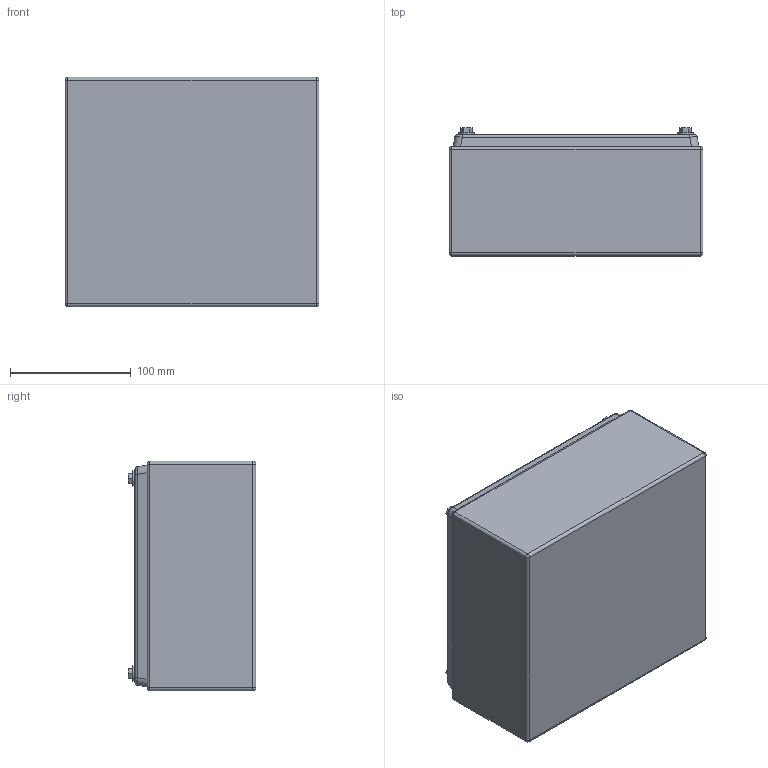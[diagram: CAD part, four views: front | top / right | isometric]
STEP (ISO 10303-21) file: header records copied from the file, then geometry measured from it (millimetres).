
FILE_DESCRIPTION (( 'STEP AP203' ), '1' );
FILE_NAME ('DE09-304A.STEP', '2021-02-23T13:05:41', ( '' ), ( '' ), 'SwSTEP 2.0', 'SolidWorks 2020', '' );
FILE_SCHEMA (( 'CONFIG_CONTROL_DESIGN' ));
Length unit declared in the file: millimetre
Products named in the file (1): DE09-304A
Bounding box: 210 x 105.6 x 190 mm (x, y, z)
Volume: 295182.5 mm3; surface area: 405252.3 mm2
Topology: 20 solids, 20 shells, 486 faces, 1153 edges, 732 vertices
Faces by surface type: plane 257, cylinder 177, cone 20, bspline 16, sphere 16
Entity records: 15354 total; most frequent: CARTESIAN_POINT 4056, DIRECTION 2341, ORIENTED_EDGE 2274, EDGE_CURVE 1137, AXIS2_PLACEMENT_3D 825, VERTEX_POINT 732, LINE 691, VECTOR 691
